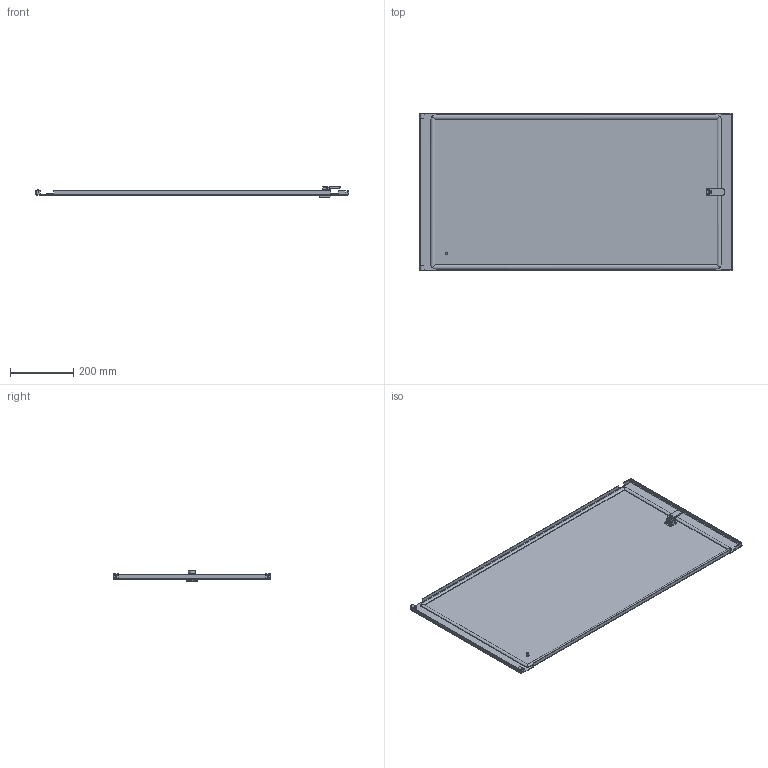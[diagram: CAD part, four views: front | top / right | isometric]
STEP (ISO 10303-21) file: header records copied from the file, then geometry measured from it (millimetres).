
FILE_DESCRIPTION(('STEP AP203'), '1');
FILE_NAME('Äâåðü ñåêöèîííàÿ 500õ1000 ìì OptiBox M 419379 ÊÝÀÇ', '', ('UNSPECIFIED'), ('UNSPECIFIED'), 'C3D Converter', 'C3D Toolkit', '');
FILE_SCHEMA(('CONFIG_CONTROL_DESIGN'));
Length unit declared in the file: millimetre
Bounding box: 986.4 x 497 x 32.2 mm (x, y, z)
Volume: 1184966.3 mm3; surface area: 1140524.3 mm2
Topology: 6 solids, 6 shells, 355 faces, 928 edges, 588 vertices
Faces by surface type: plane 252, cylinder 92, bspline 8, cone 2, torus 1
Full cylindrical faces by diameter (mm): 0.75 x1, 1 x1, 3 x1, 5 x2, 6 x1, 7.5 x1, 9.3 x1, 10 x1, 20 x1
Entity records: 11864 total; most frequent: CARTESIAN_POINT 3095, ORIENTED_EDGE 1830, DIRECTION 1731, EDGE_CURVE 915, LINE 705, VECTOR 705, VERTEX_POINT 588, AXIS2_PLACEMENT_3D 513
